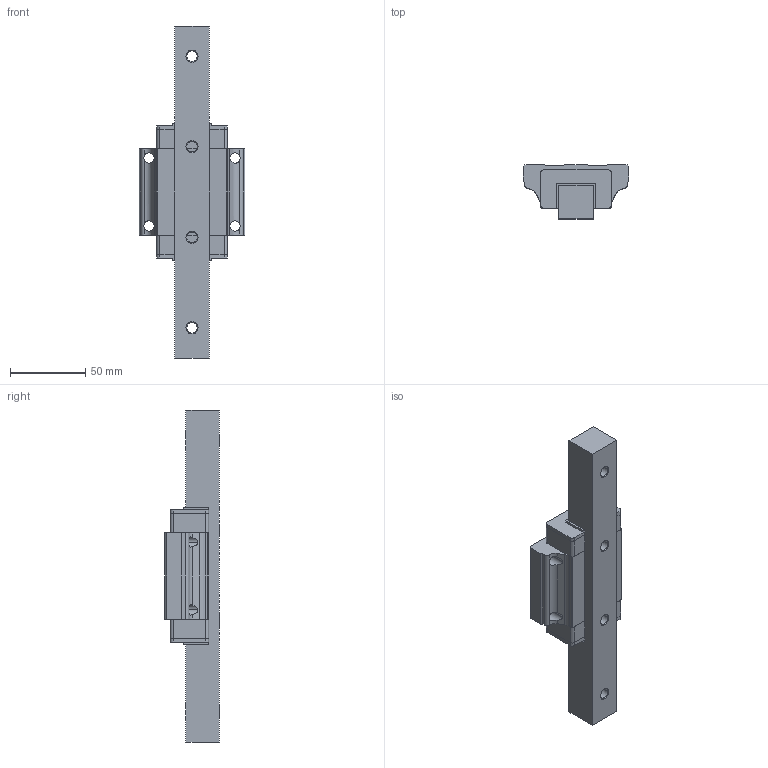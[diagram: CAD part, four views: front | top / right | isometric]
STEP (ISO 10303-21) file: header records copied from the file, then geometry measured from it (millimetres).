
FILE_DESCRIPTION( ( 'STEP File Generated from CADKEY Workshop EX' ), '1' );
FILE_NAME( 'Part1', '2004-11-06T00:02:41', ( 'CADKEY USER' ), ( 'CADKEY CORPORATION' ), 'ACIS Interop R11 SP4', 'CADKEY Workshop EX V21.05.02 (0359)', 'CK' );
FILE_SCHEMA( ( 'CONFIG_CONTROL_DESIGN' ) );
Length unit declared in the file: millimetre
Products named in the file (6): 1; 2; 3; 4; 5; 6
Bounding box: 70 x 36 x 220 mm (x, y, z)
Volume: 209617.5 mm3; surface area: 51425.4 mm2
Topology: 6 solids, 6 shells, 154 faces, 410 edges, 268 vertices
Faces by surface type: plane 88, cylinder 50, cone 16
Entity records: 5295 total; most frequent: CARTESIAN_POINT 1094, DIRECTION 822, ORIENTED_EDGE 820, EDGE_CURVE 410, LINE 286, VECTOR 286, AXIS2_PLACEMENT_3D 268, VERTEX_POINT 268
